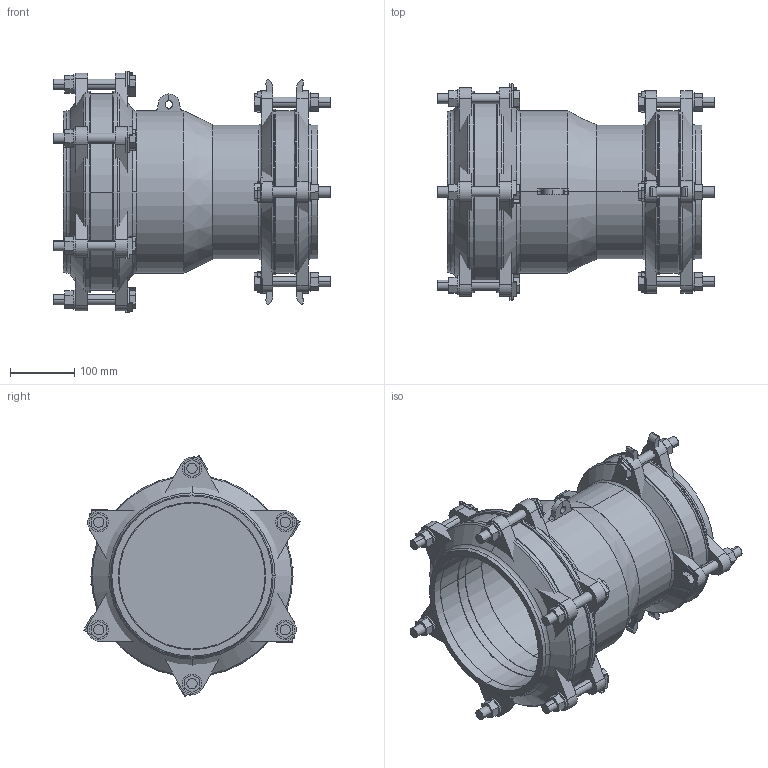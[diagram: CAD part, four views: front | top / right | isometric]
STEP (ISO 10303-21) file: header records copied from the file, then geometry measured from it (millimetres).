
FILE_DESCRIPTION(('STEP AP214'),'1');
FILE_NAME('MJ0000xx DN 200-150.STP','2015-02-06T12:15:01',(' '),(' '),'Spatial InterOp 3D',' ',' ');
FILE_SCHEMA(('automotive_design'));
Length unit declared in the file: millimetre
Products named in the file (97): 3D-Objekt
Bounding box: 431 x 337.88 x 376.92 mm (x, y, z)
Volume: 7794335.4 mm3; surface area: 1538661.7 mm2
Topology: 97 solids, 97 shells, 727 faces, 1594 edges, 1060 vertices
Faces by surface type: plane 521, cylinder 160, torus 24, cone 22
Entity records: 28001 total; most frequent: DIRECTION 3670, CARTESIAN_POINT 3478, ORIENTED_EDGE 3188, EDGE_CURVE 1594, AXIS2_PLACEMENT_3D 1252, LINE 1166, VECTOR 1166, VERTEX_POINT 1060
